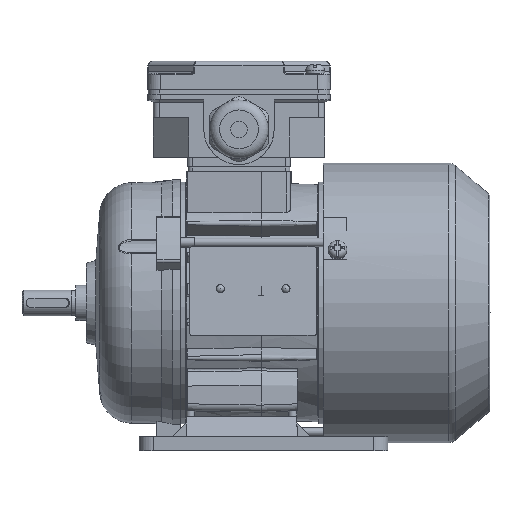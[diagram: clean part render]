
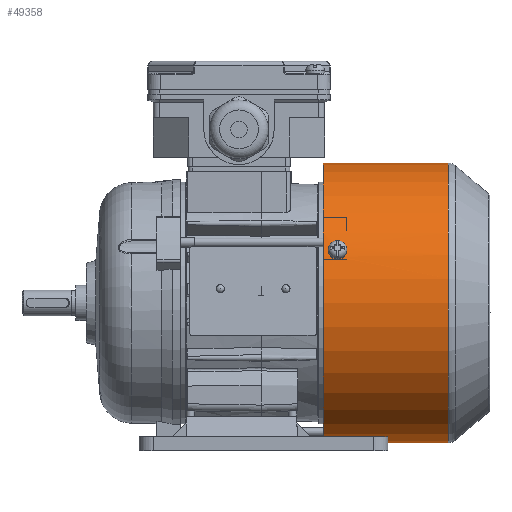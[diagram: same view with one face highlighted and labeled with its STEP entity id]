
A CAD part, front view. The second image highlights one B-rep face of the part: STEP entity #49358.
In plain terms, the highlighted cylindrical face has radius 59.6 mm (diameter 119.2 mm), a full revolution.
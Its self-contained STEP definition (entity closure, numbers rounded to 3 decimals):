
#1012=B_SPLINE_CURVE_WITH_KNOTS('',3,(#74680,#74681,#74682,#74683,#74684,
#74685,#74686),.UNSPECIFIED.,.F.,.F.,(4,1,1,1,4),(0.,0.002,
0.004,0.006,0.008),
 .UNSPECIFIED.);
#1014=B_SPLINE_CURVE_WITH_KNOTS('',3,(#74704,#74705,#74706,#74707,#74708,
#74709,#74710),.UNSPECIFIED.,.F.,.F.,(4,1,1,1,4),(0.,
0.002,0.004,0.006,0.008),
 .UNSPECIFIED.);
#1016=B_SPLINE_CURVE_WITH_KNOTS('',3,(#74731,#74732,#74733,#74734,#74735,
#74736,#74737),.UNSPECIFIED.,.F.,.F.,(4,1,1,1,4),(0.,0.002,
0.004,0.006,0.008),
 .UNSPECIFIED.);
#1018=B_SPLINE_CURVE_WITH_KNOTS('',3,(#74755,#74756,#74757,#74758,#74759,
#74760,#74761),.UNSPECIFIED.,.F.,.F.,(4,1,1,1,4),(0.,0.002,
0.004,0.006,0.008),
 .UNSPECIFIED.);
#1019=B_SPLINE_CURVE_WITH_KNOTS('',3,(#74767,#74768,#74769,#74770,#74771,
#74772,#74773),.UNSPECIFIED.,.F.,.F.,(4,1,1,1,4),(0.,
0.002,0.004,0.006,0.007),
 .UNSPECIFIED.);
#1020=B_SPLINE_CURVE_WITH_KNOTS('',3,(#74776,#74777,#74778,#74779,#74780,
#74781,#74782),.UNSPECIFIED.,.F.,.F.,(4,1,1,1,4),(0.,
0.002,0.004,0.006,0.007),
 .UNSPECIFIED.);
#2906=CIRCLE('',#51248,59.6);
#3551=CIRCLE('',#52548,59.6);
#3553=CIRCLE('',#52552,59.6);
#3554=CIRCLE('',#52554,59.6);
#3556=CIRCLE('',#52558,59.6);
#3558=CIRCLE('',#52563,59.6);
#11763=ORIENTED_EDGE('',*,*,#18684,.T.);
#11764=ORIENTED_EDGE('',*,*,#18681,.T.);
#11765=ORIENTED_EDGE('',*,*,#18689,.T.);
#11766=ORIENTED_EDGE('',*,*,#18687,.T.);
#11767=ORIENTED_EDGE('',*,*,#18690,.F.);
#11768=ORIENTED_EDGE('',*,*,#18691,.F.);
#11769=ORIENTED_EDGE('',*,*,#18671,.T.);
#11770=ORIENTED_EDGE('',*,*,#18668,.T.);
#11771=ORIENTED_EDGE('',*,*,#18676,.T.);
#11772=ORIENTED_EDGE('',*,*,#18674,.T.);
#11773=ORIENTED_EDGE('',*,*,#16830,.F.);
#11774=ORIENTED_EDGE('',*,*,#18677,.T.);
#16830=EDGE_CURVE('',#21491,#21491,#2906,.T.);
#18668=EDGE_CURVE('',#22727,#22730,#1012,.T.);
#18671=EDGE_CURVE('',#22731,#22727,#3551,.F.);
#18674=EDGE_CURVE('',#22733,#22731,#1014,.T.);
#18676=EDGE_CURVE('',#22730,#22733,#3553,.F.);
#18677=EDGE_CURVE('',#22735,#22735,#3554,.F.);
#18681=EDGE_CURVE('',#22736,#22739,#1016,.T.);
#18684=EDGE_CURVE('',#22740,#22736,#3556,.F.);
#18687=EDGE_CURVE('',#22742,#22740,#1018,.T.);
#18689=EDGE_CURVE('',#22739,#22742,#3558,.F.);
#18690=EDGE_CURVE('',#22744,#22745,#1019,.T.);
#18691=EDGE_CURVE('',#22745,#22744,#1020,.T.);
#21491=VERTEX_POINT('',#69578);
#22727=VERTEX_POINT('',#74668);
#22730=VERTEX_POINT('',#74679);
#22731=VERTEX_POINT('',#74689);
#22733=VERTEX_POINT('',#74695);
#22735=VERTEX_POINT('',#74716);
#22736=VERTEX_POINT('',#74719);
#22739=VERTEX_POINT('',#74730);
#22740=VERTEX_POINT('',#74740);
#22742=VERTEX_POINT('',#74746);
#22744=VERTEX_POINT('',#74774);
#22745=VERTEX_POINT('',#74775);
#30596=EDGE_LOOP('',(#11763,#11764,#11765,#11766));
#30597=EDGE_LOOP('',(#11767,#11768));
#30598=EDGE_LOOP('',(#11769,#11770,#11771,#11772));
#30599=EDGE_LOOP('',(#11773));
#30600=EDGE_LOOP('',(#11774));
#32933=FACE_BOUND('',#30596,.T.);
#32934=FACE_BOUND('',#30597,.T.);
#32935=FACE_BOUND('',#30598,.T.);
#32936=FACE_BOUND('',#30599,.T.);
#32937=FACE_BOUND('',#30600,.T.);
#33992=CYLINDRICAL_SURFACE('',#52564,59.6);
#49358=ADVANCED_FACE('',(#32933,#32934,#32935,#32936,#32937),#33992,.T.);
#51248=AXIS2_PLACEMENT_3D('',#69577,#57151,#57152);
#52548=AXIS2_PLACEMENT_3D('',#74692,#60661,#60662);
#52552=AXIS2_PLACEMENT_3D('',#74713,#60670,#60671);
#52554=AXIS2_PLACEMENT_3D('',#74715,#60674,#60675);
#52558=AXIS2_PLACEMENT_3D('',#74743,#60685,#60686);
#52563=AXIS2_PLACEMENT_3D('',#74765,#60696,#60697);
#52564=AXIS2_PLACEMENT_3D('',#74766,#60698,#60699);
#57151=DIRECTION('',(-1.,0.,0.));
#57152=DIRECTION('',(0.,0.,1.));
#60661=DIRECTION('',(-1.,0.,0.));
#60662=DIRECTION('',(0.,0.866,-0.5));
#60670=DIRECTION('',(1.,0.,0.));
#60671=DIRECTION('',(0.,-0.866,0.5));
#60674=DIRECTION('',(1.,0.,0.));
#60675=DIRECTION('',(0.,0.,-1.));
#60685=DIRECTION('',(-1.,0.,0.));
#60686=DIRECTION('',(0.,0.,1.));
#60696=DIRECTION('',(1.,0.,0.));
#60697=DIRECTION('',(0.,0.,-1.));
#60698=DIRECTION('',(-1.,0.,0.));
#60699=DIRECTION('',(0.,0.,1.));
#69577=CARTESIAN_POINT('',(26.5,0.,0.));
#69578=CARTESIAN_POINT('',(26.5,0.,59.6));
#74668=CARTESIAN_POINT('',(35.,46.437,37.36));
#74679=CARTESIAN_POINT('',(30.,46.437,37.36));
#74680=CARTESIAN_POINT('',(35.,46.437,37.36));
#74681=CARTESIAN_POINT('',(35.,46.023,37.874));
#74682=CARTESIAN_POINT('',(34.458,45.191,38.867));
#74683=CARTESIAN_POINT('',(32.502,44.648,39.479));
#74684=CARTESIAN_POINT('',(30.542,45.19,38.869));
#74685=CARTESIAN_POINT('',(30.,46.023,37.874));
#74686=CARTESIAN_POINT('',(30.,46.437,37.36));
#74689=CARTESIAN_POINT('',(35.,47.484,36.02));
#74692=CARTESIAN_POINT('',(35.,0.,0.));
#74695=CARTESIAN_POINT('',(30.,47.484,36.02));
#74704=CARTESIAN_POINT('',(30.,47.484,36.02));
#74705=CARTESIAN_POINT('',(30.,47.883,35.493));
#74706=CARTESIAN_POINT('',(30.542,48.645,34.446));
#74707=CARTESIAN_POINT('',(32.498,49.108,33.771));
#74708=CARTESIAN_POINT('',(34.458,48.646,34.444));
#74709=CARTESIAN_POINT('',(35.,47.883,35.493));
#74710=CARTESIAN_POINT('',(35.,47.484,36.02));
#74713=CARTESIAN_POINT('',(30.,0.,0.));
#74715=CARTESIAN_POINT('',(79.809,0.,0.));
#74716=CARTESIAN_POINT('',(79.809,0.,-59.6));
#74719=CARTESIAN_POINT('',(35.,-55.573,21.536));
#74730=CARTESIAN_POINT('',(30.,-55.573,21.536));
#74731=CARTESIAN_POINT('',(35.,-55.573,21.536));
#74732=CARTESIAN_POINT('',(35.,-55.812,20.92));
#74733=CARTESIAN_POINT('',(34.458,-56.255,19.703));
#74734=CARTESIAN_POINT('',(32.502,-56.514,18.927));
#74735=CARTESIAN_POINT('',(30.542,-56.256,19.701));
#74736=CARTESIAN_POINT('',(30.,-55.812,20.92));
#74737=CARTESIAN_POINT('',(30.,-55.573,21.536));
#74740=CARTESIAN_POINT('',(35.,-54.936,23.112));
#74743=CARTESIAN_POINT('',(35.,0.,0.));
#74746=CARTESIAN_POINT('',(30.,-54.936,23.112));
#74755=CARTESIAN_POINT('',(30.,-54.936,23.112));
#74756=CARTESIAN_POINT('',(30.,-54.68,23.721));
#74757=CARTESIAN_POINT('',(30.542,-54.154,24.905));
#74758=CARTESIAN_POINT('',(32.498,-53.8,25.643));
#74759=CARTESIAN_POINT('',(34.458,-54.153,24.907));
#74760=CARTESIAN_POINT('',(35.,-54.68,23.721));
#74761=CARTESIAN_POINT('',(35.,-54.936,23.112));
#74765=CARTESIAN_POINT('',(30.,0.,0.));
#74766=CARTESIAN_POINT('',(-33.5,0.,0.));
#74767=CARTESIAN_POINT('',(35.,8.295,-59.02));
#74768=CARTESIAN_POINT('',(34.937,7.681,-59.106));
#74769=CARTESIAN_POINT('',(34.356,6.499,-59.249));
#74770=CARTESIAN_POINT('',(32.502,5.777,-59.318));
#74771=CARTESIAN_POINT('',(30.649,6.493,-59.25));
#74772=CARTESIAN_POINT('',(30.063,7.681,-59.106));
#74773=CARTESIAN_POINT('',(30.,8.295,-59.02));
#74774=CARTESIAN_POINT('',(35.,8.295,-59.02));
#74775=CARTESIAN_POINT('',(30.,8.295,-59.02));
#74776=CARTESIAN_POINT('',(30.,8.295,-59.02));
#74777=CARTESIAN_POINT('',(30.063,8.908,-58.934));
#74778=CARTESIAN_POINT('',(30.644,10.084,-58.746));
#74779=CARTESIAN_POINT('',(32.498,10.797,-58.613));
#74780=CARTESIAN_POINT('',(34.351,10.09,-58.745));
#74781=CARTESIAN_POINT('',(34.937,8.908,-58.934));
#74782=CARTESIAN_POINT('',(35.,8.295,-59.02));
